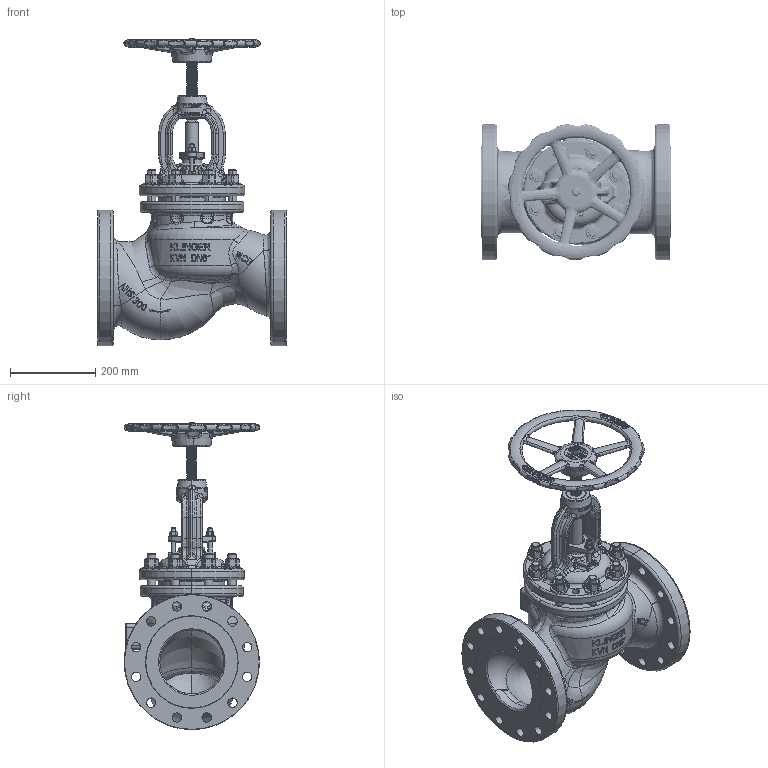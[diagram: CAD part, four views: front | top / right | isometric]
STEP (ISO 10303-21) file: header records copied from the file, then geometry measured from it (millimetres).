
FILE_DESCRIPTION((''),'2;1');
FILE_NAME('KVNFL-6-S-----C300PGG_SW0001','2026-09-28T13:33:45',('jeitlers'),('KLINGER'),'CREO PARAMETRIC BY PTC INC, 2025443','CREO PARAMETRIC BY PTC INC, 2025443','');
FILE_SCHEMA(('CONFIG_CONTROL_DESIGN'));
Length unit declared in the file: millimetre
Products named in the file (1): KVNFL-6-S-----C300PGG_SW0001
Bounding box: 445 x 318.95 x 721.9 mm (x, y, z)
Volume: 14253936.6 mm3; surface area: 1674672.4 mm2
Topology: 3 solids, 15 shells, 4802 faces, 12644 edges, 8016 vertices
Faces by surface type: plane 2695, cylinder 761, bspline 728, torus 370, cone 228, sphere 20
Entity records: 336995 total; most frequent: CARTESIAN_POINT 226268, ORIENTED_EDGE 25270, DIRECTION 19991, EDGE_CURVE 12635, VERTEX_POINT 8015, AXIS2_PLACEMENT_3D 7047, VECTOR 5897, LINE 5897
